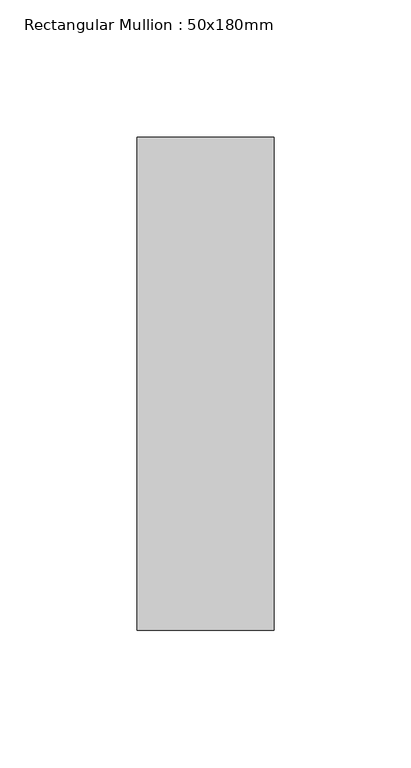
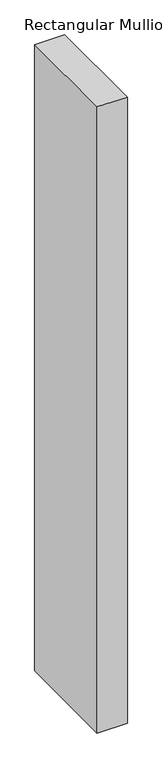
"""IFC4 building model written with IfcOpenShell, lengths in millimetres: member geometry, Rectangular Mullion : 50x180mm."""

from ifc_helpers import new_model, si_unit, frame, origin, place, context, project, spatial, polyline, outline, extrude, source, transform, mapped, element, save


def rectangular_mullion_50x180mm_27940352(model_context):
    return source(origin(), model_context, "Body", "SweptSolid", [
        extrude(outline(polyline([(25.0, 90.0), (25.0, -90.0), (-25.0, -90.0), (-25.0, 90.0), (25.0, 90.0)])), frame((0.0, 0.0, -1100.0), z_axis=(0.0, 0.0, 1.0), x_axis=(1.0, 0.0, 0.0)), (0.0, 0.0, 1.0), 1100.0),
    ])


if __name__ == "__main__":
    model = new_model("IFC4")
    model_context = context("Model", 3, world=origin())
    ifc_project = project(units=[si_unit("LENGTHUNIT", "METRE", prefix="MILLI")], contexts=[model_context])
    site = spatial("IfcSite", under=ifc_project)
    building = spatial("IfcBuilding", under=site)
    placement = place(None, origin())
    rectangular_mullion_50x180mm_shape = rectangular_mullion_50x180mm_27940352(model_context)
    element("IfcMember", 1, ObjectType="Rectangular Mullion : 50x180mm", at=placement, inside=building, context=model_context, shape_type="MappedRepresentation", body=[
        mapped(rectangular_mullion_50x180mm_shape, transform((0.0, 0.0, 0.0), x_axis=(1.0, 0.0, 0.0), y_axis=(0.0, 1.0, 0.0), z_axis=(0.0, 0.0, 1.0))),
    ])
    save(model, "model.ifc")
